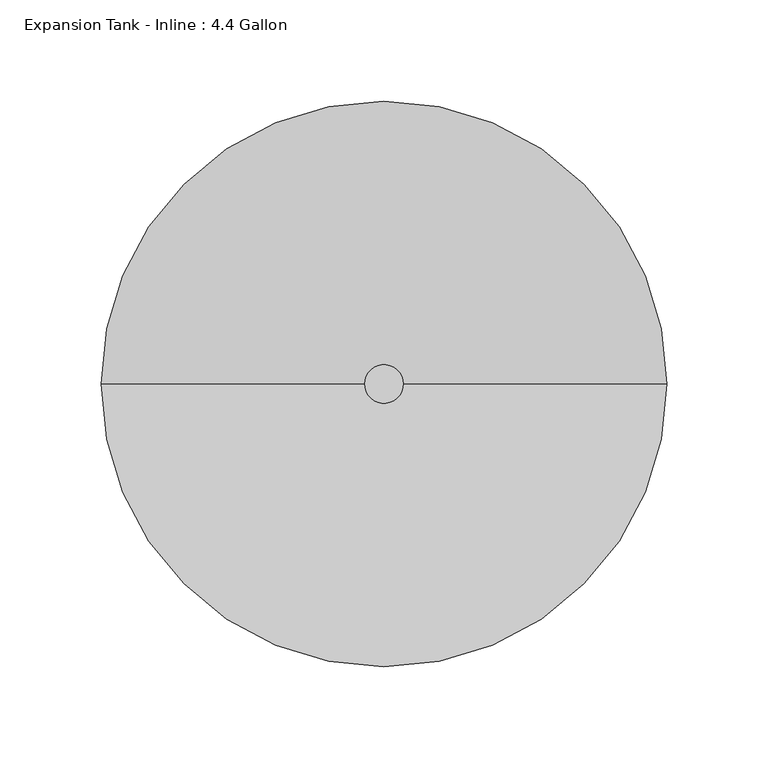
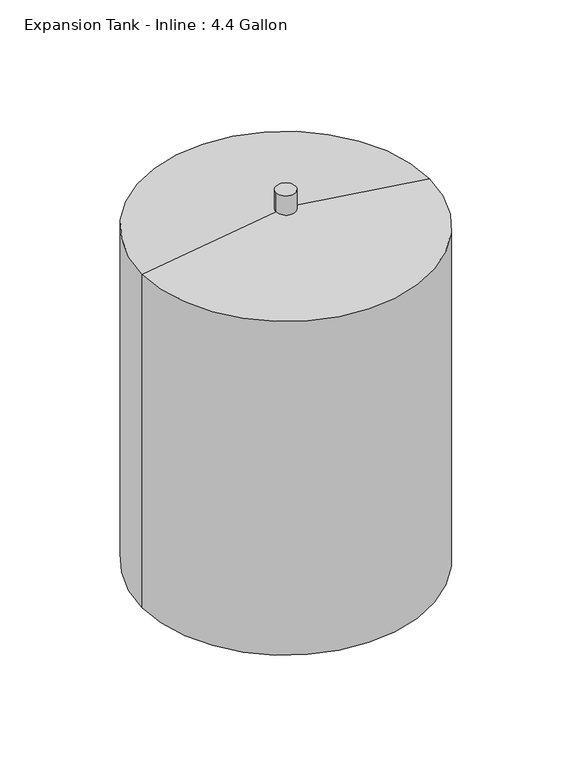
"""IFC4 building model written with IfcOpenShell, lengths in millimetres: proxy geometry, Expansion Tank - Inline : 4.4 Gallon."""

from ifc_helpers import new_model, si_unit, point, frame, origin, place, context, project, spatial, circle_curve, ellipse_curve, trimmed, source, transform, mapped, element, save
from ifc_brep_helpers import plane_surface, cylinder_surface, revolved_surface, advanced_brep


def expansion_tank_inline_4_4_gallon_b52cc65e(model_context):
    return source(origin(), model_context, "Body", "AdvancedBrep", [
        advanced_brep(
        [(-9.525, 0.0, 400.05), (9.525, 0.0, 400.05), (-9.525, 0.0, 380.326663), (9.525, 0.0, 380.326663), (-139.7, 0.0, 361.95), (139.7, 0.0, 361.95), (-139.7, 0.0, 19.05), (139.7, 0.0, 19.05), (0.0, 0.0, 0.0)],
        [
            (0, 1, circle_curve(frame((0.0, 0.0, 400.05), z_axis=(0.0, 0.0, 1.0), x_axis=(1.0, 0.0, 0.0)), 9.525)),
            (1, 0, circle_curve(frame((0.0, 0.0, 400.05), z_axis=(0.0, 0.0, 1.0), x_axis=(1.0, 0.0, 0.0)), 9.525)),
            (0, 2),
            (2, 3, circle_curve(frame((0.0, 0.0, 380.326663), z_axis=(0.0, 0.0, 1.0), x_axis=(1.0, 0.0, 0.0)), 9.525)),
            (3, 1),
            (3, 2, circle_curve(frame((0.0, 0.0, 380.326663), z_axis=(0.0, 0.0, 1.0), x_axis=(1.0, 0.0, 0.0)), 9.525)),
            (4, 2, circle_curve(frame((66.6484909, 0.0, -629.5139333), z_axis=(0.0, 1.0, 0.0), x_axis=(1.0, 0.0, 0.0)), 1012.7094503)),
            (3, 5, circle_curve(frame((-66.6484909, 0.0, -629.5139333), z_axis=(1.1984743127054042e-12, 1.0, 0.0), x_axis=(-1.0, 1.1984743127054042e-12, 0.0)), 1012.7094503)),
            (5, 4, circle_curve(frame((0.0, 0.0, 361.95), z_axis=(0.0, 0.0, 1.0), x_axis=(-1.0, 0.0, 0.0)), 139.7)),
            (4, 5, circle_curve(frame((0.0, 0.0, 361.95), z_axis=(0.0, 0.0, 1.0), x_axis=(-1.0, 0.0, 0.0)), 139.7)),
            (4, 6),
            (6, 7, circle_curve(frame((0.0, 0.0, 19.05), z_axis=(0.0, 0.0, 1.0), x_axis=(1.0, 0.0, 0.0)), 139.7)),
            (7, 5),
            (7, 6, circle_curve(frame((0.0, 0.0, 19.05), z_axis=(0.0, 0.0, 1.0), x_axis=(1.0, 0.0, 0.0)), 139.7)),
            (8, 6, circle_curve(frame((65.1877669, 0.0, 999.8019576), z_axis=(0.0, 1.0, 0.0), x_axis=(1.0, 0.0, 0.0)), 1001.9248472)),
            (7, 8, circle_curve(frame((-65.1877669, 0.0, 999.8019576), z_axis=(0.0, 1.0, 0.0), x_axis=(-1.0, 0.0, 0.0)), 1001.9248472)),
        ],
        [
            plane_surface(frame((9.525, 0.0, 400.05), z_axis=(0.0, 0.0, 1.0), x_axis=(0.0, 1.0, 0.0))),
            cylinder_surface(frame((0.0, 0.0, 361.95), z_axis=(0.0, 0.0, 1.0), x_axis=(1.0, 0.0, 0.0)), 9.525),
            revolved_surface(trimmed(ellipse_curve(frame((66.6484909, 0.0, -629.5139333), z_axis=(0.0, -1.0, 0.0), x_axis=(1.0, 0.0, 0.0)), 1012.7094503, 1012.7094503), [point((0.0, 0.0, 381.0))], [point((-139.7, 0.0, 361.95))], True, "CARTESIAN"), (0.0, 0.0, 381.0), (0.0, 0.0, -1.0)),
            cylinder_surface(frame((0.0, 0.0, 19.05), z_axis=(0.0, 0.0, 1.0), x_axis=(1.0, 0.0, 0.0)), 139.7),
            revolved_surface(trimmed(ellipse_curve(frame((65.1877669, 0.0, 999.8019576), z_axis=(0.0, -1.0, 0.0), x_axis=(1.0, 0.0, 0.0)), 1001.9248472, 1001.9248472), [point((-139.7, 0.0, 19.05))], [point((0.0, 0.0, 0.0))], True, "CARTESIAN"), (0.0, 0.0, 19.05), (0.0, 0.0, -1.0)),
        ],
        [
            (0, [[1, 2]]),
            (1, [[-1, 3, 4, 5]]),
            (1, [[-2, -5, 6, -3]]),
            (2, [[7, -6, 8, 9]]),
            (2, [[-7, 10, -8, -4]]),
            (3, [[11, 12, 13, -10]]),
            (3, [[-11, -9, -13, 14]]),
            (4, [[15, -14, 16]]),
            (4, [[-15, -16, -12]]),
        ],
    ),
    ])


if __name__ == "__main__":
    model = new_model("IFC4")
    model_context = context("Model", 3, world=origin())
    ifc_project = project(units=[si_unit("LENGTHUNIT", "METRE", prefix="MILLI")], contexts=[model_context])
    site = spatial("IfcSite", under=ifc_project)
    building = spatial("IfcBuilding", under=site)
    placement = place(None, origin())
    expansion_tank_inline_4_4_gallon_shape = expansion_tank_inline_4_4_gallon_b52cc65e(model_context)
    element("IfcBuildingElementProxy", 1, Name="Expansion Tank - Inline : 4.4 Gallon", ObjectType="Expansion Tank - Inline : 4.4 Gallon", at=placement, inside=building, context=model_context, shape_type="MappedRepresentation", body=[
        mapped(expansion_tank_inline_4_4_gallon_shape, transform((0.0, 0.0, 0.0), x_axis=(1.0, 0.0, 0.0), y_axis=(0.0, 1.0, 0.0), z_axis=(0.0, 0.0, 1.0))),
    ])
    save(model, "model.ifc")
